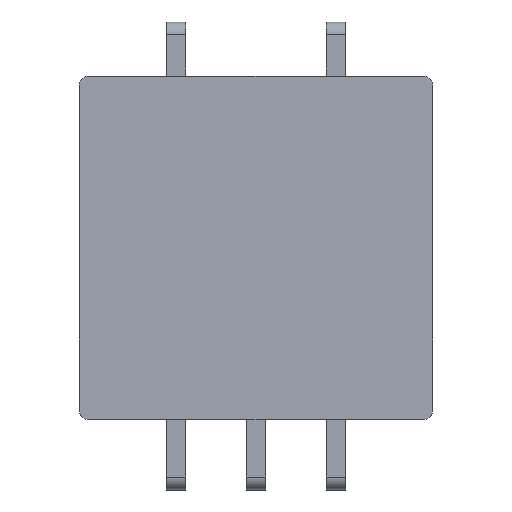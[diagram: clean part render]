
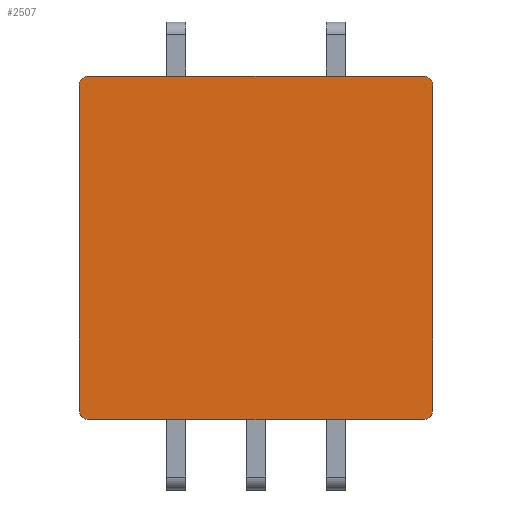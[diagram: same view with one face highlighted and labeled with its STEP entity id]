
A CAD part, top view. The second image highlights one B-rep face of the part: STEP entity #2507.
In plain terms, the highlighted planar face has unit normal (0, 0, 1).
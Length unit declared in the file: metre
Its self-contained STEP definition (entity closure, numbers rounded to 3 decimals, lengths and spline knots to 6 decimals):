
#96=CIRCLE('',#3119,0.0003);
#97=CIRCLE('',#3120,0.0003);
#98=CIRCLE('',#3121,0.0003);
#99=CIRCLE('',#3122,0.0003);
#653=ORIENTED_EDGE('',*,*,#1111,.F.);
#654=ORIENTED_EDGE('',*,*,#1112,.F.);
#655=ORIENTED_EDGE('',*,*,#1113,.F.);
#656=ORIENTED_EDGE('',*,*,#1114,.F.);
#657=ORIENTED_EDGE('',*,*,#1115,.F.);
#658=ORIENTED_EDGE('',*,*,#1116,.F.);
#659=ORIENTED_EDGE('',*,*,#1117,.F.);
#660=ORIENTED_EDGE('',*,*,#1118,.F.);
#1111=EDGE_CURVE('',#1353,#1354,#96,.T.);
#1112=EDGE_CURVE('',#1355,#1353,#1629,.T.);
#1113=EDGE_CURVE('',#1356,#1355,#97,.T.);
#1114=EDGE_CURVE('',#1357,#1356,#1630,.T.);
#1115=EDGE_CURVE('',#1358,#1357,#98,.T.);
#1116=EDGE_CURVE('',#1359,#1358,#1631,.T.);
#1117=EDGE_CURVE('',#1360,#1359,#99,.T.);
#1118=EDGE_CURVE('',#1354,#1360,#1632,.T.);
#1353=VERTEX_POINT('',#4817);
#1354=VERTEX_POINT('',#4818);
#1355=VERTEX_POINT('',#4820);
#1356=VERTEX_POINT('',#4822);
#1357=VERTEX_POINT('',#4824);
#1358=VERTEX_POINT('',#4826);
#1359=VERTEX_POINT('',#4828);
#1360=VERTEX_POINT('',#4830);
#1629=LINE('',#4819,#1909);
#1630=LINE('',#4823,#1910);
#1631=LINE('',#4827,#1911);
#1632=LINE('',#4831,#1912);
#1909=VECTOR('',#3702,1.);
#1910=VECTOR('',#3705,1.);
#1911=VECTOR('',#3708,1.);
#1912=VECTOR('',#3711,1.);
#2050=EDGE_LOOP('',(#653,#654,#655,#656,#657,#658,#659,#660));
#2191=FACE_BOUND('',#2050,.T.);
#2307=PLANE('',#3118);
#2507=ADVANCED_FACE('',(#2191),#2307,.F.);
#3118=AXIS2_PLACEMENT_3D('',#4815,#3698,#3699);
#3119=AXIS2_PLACEMENT_3D('',#4816,#3700,#3701);
#3120=AXIS2_PLACEMENT_3D('',#4821,#3703,#3704);
#3121=AXIS2_PLACEMENT_3D('',#4825,#3706,#3707);
#3122=AXIS2_PLACEMENT_3D('',#4829,#3709,#3710);
#3698=DIRECTION('',(0.,0.,-1.));
#3699=DIRECTION('',(-1.,0.,0.));
#3700=DIRECTION('',(0.,0.,-1.));
#3701=DIRECTION('',(-1.,0.,0.));
#3702=DIRECTION('',(0.,1.,0.));
#3703=DIRECTION('',(0.,0.,-1.));
#3704=DIRECTION('',(-1.,0.,0.));
#3705=DIRECTION('',(-1.,0.,0.));
#3706=DIRECTION('',(0.,0.,-1.));
#3707=DIRECTION('',(-1.,0.,0.));
#3708=DIRECTION('',(0.,-1.,0.));
#3709=DIRECTION('',(0.,0.,-1.));
#3710=DIRECTION('',(-1.,0.,0.));
#3711=DIRECTION('',(1.,0.,0.));
#4815=CARTESIAN_POINT('',(-0.08327,-0.050056,0.01199));
#4816=CARTESIAN_POINT('',(-0.08327,-0.050056,0.01199));
#4817=CARTESIAN_POINT('',(-0.08357,-0.050056,0.01199));
#4818=CARTESIAN_POINT('',(-0.08327,-0.049756,0.01199));
#4819=CARTESIAN_POINT('',(-0.08357,-0.060256,0.01199));
#4820=CARTESIAN_POINT('',(-0.08357,-0.060256,0.01199));
#4821=CARTESIAN_POINT('',(-0.08327,-0.060256,0.01199));
#4822=CARTESIAN_POINT('',(-0.08327,-0.060556,0.01199));
#4823=CARTESIAN_POINT('',(-0.07277,-0.060556,0.01199));
#4824=CARTESIAN_POINT('',(-0.07277,-0.060556,0.01199));
#4825=CARTESIAN_POINT('',(-0.07277,-0.060256,0.01199));
#4826=CARTESIAN_POINT('',(-0.07247,-0.060256,0.01199));
#4827=CARTESIAN_POINT('',(-0.07247,-0.050056,0.01199));
#4828=CARTESIAN_POINT('',(-0.07247,-0.050056,0.01199));
#4829=CARTESIAN_POINT('',(-0.07277,-0.050056,0.01199));
#4830=CARTESIAN_POINT('',(-0.07277,-0.049756,0.01199));
#4831=CARTESIAN_POINT('',(-0.08327,-0.049756,0.01199));
